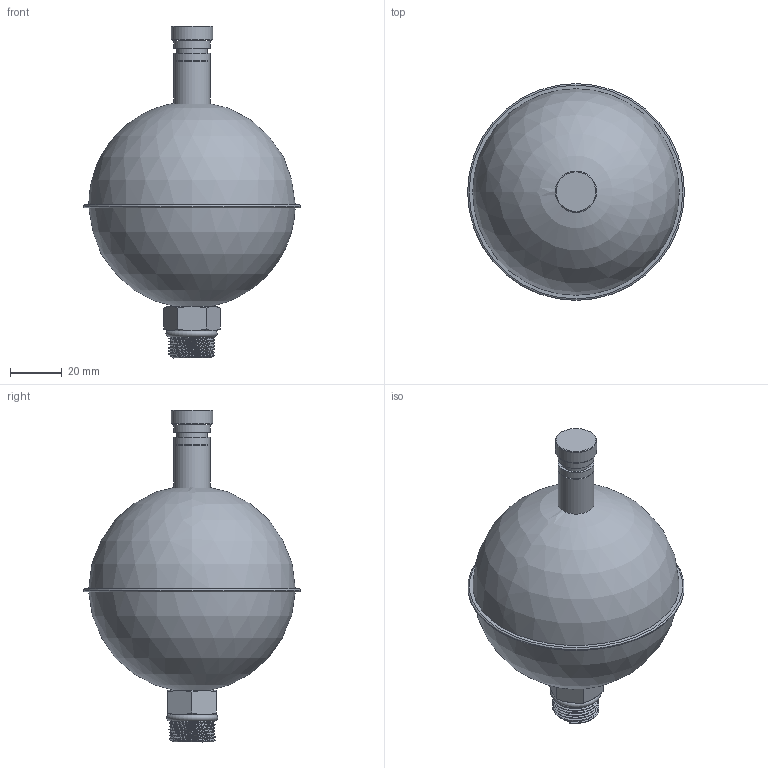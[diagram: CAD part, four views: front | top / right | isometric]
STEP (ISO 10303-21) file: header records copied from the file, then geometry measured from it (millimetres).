
FILE_DESCRIPTION(/* description */ (''),/* implementation_level */ '2;1');
FILE_NAME(/* name */ 'Purg-Inox 2000 V01 neu',/* time_stamp */ '2026-03-06T16:12:23+01:00',/* author */ (''),/* organization */ (''),/* preprocessor_version */ 'ST-DEVELOPER v16.13',/* originating_system */ 'MicroStation Version 10.15.02.11',/* authorisation */ '');
FILE_SCHEMA (('AUTOMOTIVE_DESIGN'));
Length unit declared in the file: millimetre
Products named in the file (1): Purg-Inox 2000 V01 neu1
Bounding box: 84 x 84 x 128.65 mm (x, y, z)
Volume: 37261.2 mm3; surface area: 48919.2 mm2
Topology: 11 solids, 31 shells, 74 faces, 165 edges, 134 vertices
Faces by surface type: plane 31, cylinder 18, cone 15, bspline 4, torus 3, sphere 3
Full cylindrical faces by diameter (mm): 8.6 x1, 8.7 x1, 9.4 x4, 10.69 x1, 11 x2, 12.002 x1, 14 x5, 16 x1, 16.5 x1, 84 x1
Entity records: 3477 total; most frequent: CARTESIAN_POINT 1514, DIRECTION 280, ORIENTED_EDGE 186, EDGE_CURVE 131, AXIS2_PLACEMENT_3D 130, VERTEX_POINT 128, FACE_BOUND 115, EDGE_LOOP 114
